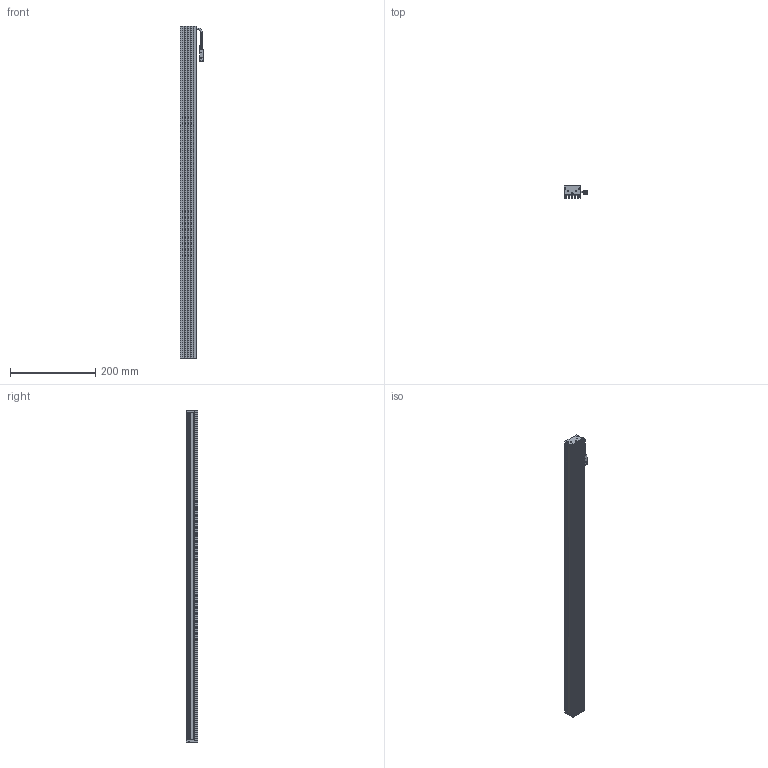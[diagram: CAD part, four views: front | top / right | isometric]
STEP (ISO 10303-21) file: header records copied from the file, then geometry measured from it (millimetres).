
FILE_DESCRIPTION (( 'STEP AP203' ), '1' );
FILE_NAME ('CK-BL77738.STEP', '2026-01-29T06:08:51', ( '' ), ( '' ), 'SwSTEP 2.0', 'SolidWorks 2022', '' );
FILE_SCHEMA (( 'CONFIG_CONTROL_DESIGN' ));
Length unit declared in the file: millimetre
Products named in the file (6): CK77738-001A; CK-BL77738-003A; CK-BL77738-002A; 十字沉头螺丝 M2x10; CK-BL77738; 光源线
Assembly tree (11 placements, depth 2):
  CK-BL77738
    CK77738-001A
    CK-BL77738-002A  x2
    CK-BL77738-003A
    光源线
    十字沉头螺丝 M2x10  x6
Bounding box: 55.84 x 27 x 777 mm (x, y, z)
Volume: 314452.6 mm3; surface area: 271002 mm2
Topology: 13 solids, 13 shells, 641 faces, 1692 edges, 1082 vertices
Faces by surface type: plane 353, cylinder 210, cone 46, bspline 32
Entity records: 16373 total; most frequent: CARTESIAN_POINT 3399, ORIENTED_EDGE 2598, DIRECTION 2515, EDGE_CURVE 1299, LINE 875, VECTOR 875, VERTEX_POINT 846, AXIS2_PLACEMENT_3D 820
